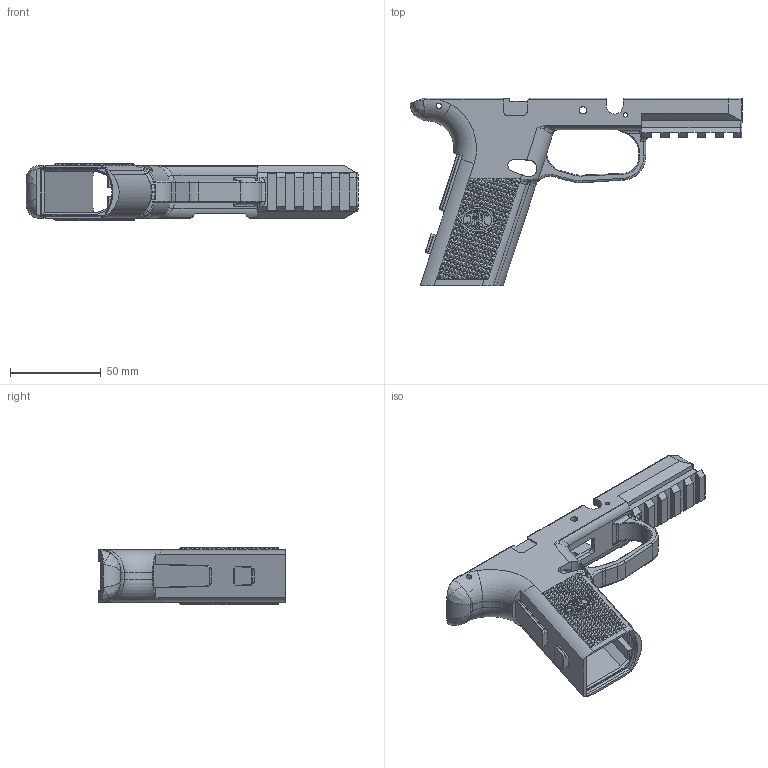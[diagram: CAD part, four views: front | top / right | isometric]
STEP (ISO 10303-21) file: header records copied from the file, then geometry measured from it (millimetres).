
FILE_DESCRIPTION(/* description */ (''),/* implementation_level */ '2;1');
FILE_NAME(/* name */ 'C:/Users/Bob/Desktop/6un5_4r3_N347/Backstrap_For_Texture_1/FNS-940_Texture_9 v3.step',/* time_stamp */ '2021-06-11T13:48:56-07:00',/* author */ (''),/* organization */ (''),/* preprocessor_version */ 'ST-DEVELOPER v18.1',/* originating_system */ 'Autodesk Translation Framework v10.9.0.1377',/* authorisation */ '');
FILE_SCHEMA (('AUTOMOTIVE_DESIGN { 1 0 10303 214 3 1 1 }'));
Products named in the file (5): FNS-940_Texture_9; Main Frame; Compact Size Grip; Standard Size Grip; Standard Size Grip (Stopgap)
Assembly tree (4 placements, depth 2):
  FNS-940_Texture_9
    Main Frame
    Compact Size Grip
    Standard Size Grip
    Standard Size Grip (Stopgap)
Bounding box: 183.1 x 103.6 x 31.54 mm (x, y, z)
Volume: 78645.1 mm3; surface area: 48161.4 mm2
Topology: 2 solids, 2 shells, 2974 faces, 6384 edges, 3369 vertices
Faces by surface type: plane 2643, bspline 176, cylinder 121, torus 28, cone 6
Full cylindrical faces by diameter (mm): 0.612 x2, 2.5 x2, 3 x2, 4.1 x2
Entity records: 92028 total; most frequent: CARTESIAN_POINT 30552, ORIENTED_EDGE 12756, DIRECTION 11848, EDGE_CURVE 6378, LINE 5552, VECTOR 5552, VERTEX_POINT 3369, AXIS2_PLACEMENT_3D 3148
